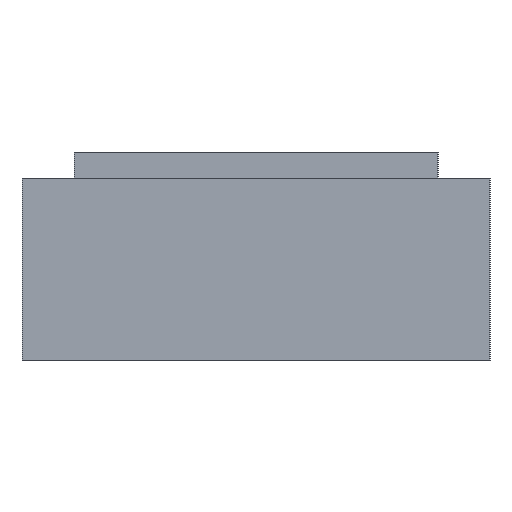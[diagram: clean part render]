
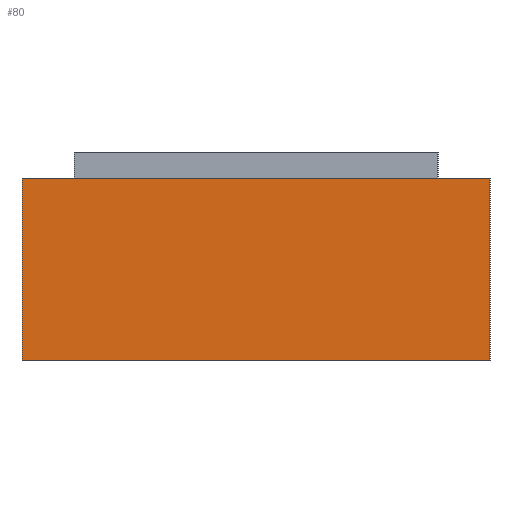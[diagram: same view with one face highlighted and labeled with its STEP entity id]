
A CAD part, left-side view. The second image highlights one B-rep face of the part: STEP entity #80.
In plain terms, the highlighted planar face has unit normal (-1, 0, 0).
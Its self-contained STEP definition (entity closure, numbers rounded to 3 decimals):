
#80 = ADVANCED_FACE( '', ( #97 ), #98, .T. );
#97 = FACE_OUTER_BOUND( '', #120, .T. );
#98 = PLANE( '', #121 );
#120 = EDGE_LOOP( '', ( #168, #169, #170, #171 ) );
#121 = AXIS2_PLACEMENT_3D( '', #172, #173, #174 );
#168 = ORIENTED_EDGE( '', *, *, #226, .T. );
#169 = ORIENTED_EDGE( '', *, *, #227, .F. );
#170 = ORIENTED_EDGE( '', *, *, #228, .T. );
#171 = ORIENTED_EDGE( '', *, *, #229, .T. );
#172 = CARTESIAN_POINT( '', ( 0., 0., 0. ) );
#173 = DIRECTION( '', ( -1., 0., 0. ) );
#174 = DIRECTION( '', ( 0., -1., 0. ) );
#226 = EDGE_CURVE( '', #258, #259, #260, .T. );
#227 = EDGE_CURVE( '', #261, #259, #262, .T. );
#228 = EDGE_CURVE( '', #261, #263, #264, .T. );
#229 = EDGE_CURVE( '', #263, #258, #265, .T. );
#258 = VERTEX_POINT( '', #310 );
#259 = VERTEX_POINT( '', #311 );
#260 = LINE( '', #312, #313 );
#261 = VERTEX_POINT( '', #314 );
#262 = LINE( '', #315, #316 );
#263 = VERTEX_POINT( '', #317 );
#264 = LINE( '', #318, #319 );
#265 = LINE( '', #320, #321 );
#310 = CARTESIAN_POINT( '', ( 0., 0., 7. ) );
#311 = CARTESIAN_POINT( '', ( 0., 18., 7. ) );
#312 = CARTESIAN_POINT( '', ( 0., 18., 7. ) );
#313 = VECTOR( '', #354, 1. );
#314 = CARTESIAN_POINT( '', ( 0., 18., 0. ) );
#315 = CARTESIAN_POINT( '', ( 0., 18., 0. ) );
#316 = VECTOR( '', #355, 1. );
#317 = CARTESIAN_POINT( '', ( 0., 0., 0. ) );
#318 = CARTESIAN_POINT( '', ( 0., 18., 0. ) );
#319 = VECTOR( '', #356, 1. );
#320 = CARTESIAN_POINT( '', ( 0., 0., 0. ) );
#321 = VECTOR( '', #357, 1. );
#354 = DIRECTION( '', ( 0., 1., 0. ) );
#355 = DIRECTION( '', ( 0., 0., 1. ) );
#356 = DIRECTION( '', ( 0., -1., 0. ) );
#357 = DIRECTION( '', ( 0., 0., 1. ) );
